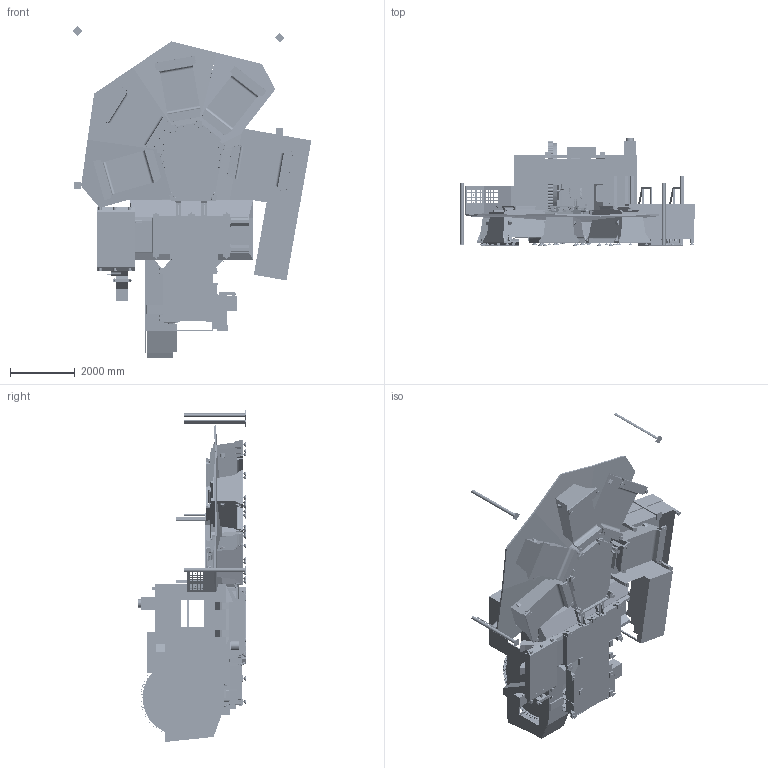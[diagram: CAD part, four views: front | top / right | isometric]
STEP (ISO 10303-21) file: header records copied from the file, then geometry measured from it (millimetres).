
FILE_DESCRIPTION (( 'STEP AP203' ), '1' );
FILE_NAME ('EC-1600ZT- Pallet Pool -10_2025.STEP', '2025-10-03T21:46:51', ( '' ), ( '' ), 'SwSTEP 2.0', 'SolidWorks 2023', '' );
FILE_SCHEMA (( 'CONFIG_CONTROL_DESIGN' ));
Length unit declared in the file: inch
Products named in the file (25): EC1600ZT-Enclosure SA; EC1600ZT-Auto Doors; EC1600ZT-70 Pkt Tool Changer Arm Down; EC1600ZT-Pallet Pool Light Curtain Barrier; EC1600ZT-70 Pkt Tool Changer Assembly; EC1600ZT-Y-Z Axis; EC1600ZT-Pallet Pool Platters; EC1600ZT-Pallet Pool Table assembly; EC1600ZT-Pallet Pool Platform Steps; EC1600ZT-Pallet Pool Center Hub; EC1600ZT-Anchor Pattern; EC1600ZT-Pallet Pool Base Castings; EC1600ZT-Control Panel; EC1600ZT-Leveling Pads; EC1600ZT-Way Covers; EC-1600ZT- Pallet Pool -10_2025; EC1600ZT-Spindle Head; EC1600ZT-95 Gallon Coolant Tank; EC1600ZT-Base Casting; EC1600ZT-In-Tank Belt Style Chip Conveyor; EC1600ZT-Chip Chute; EC1600ZT-70 Pkt Tool Changer Arm Up; EC1600ZT-Pallet Pool Enclosure; EC1600ZT-Side Doors; EC1600ZT-Pallet Pool Leveling Pads
Assembly tree (24 placements, depth 2):
  EC-1600ZT- Pallet Pool -10_2025
    EC1600ZT-Anchor Pattern
    EC1600ZT-Base Casting
    EC1600ZT-Leveling Pads
    EC1600ZT-Y-Z Axis
    EC1600ZT-Spindle Head
    EC1600ZT-Way Covers
    EC1600ZT-70 Pkt Tool Changer Assembly
    EC1600ZT-70 Pkt Tool Changer Arm Up
    EC1600ZT-70 Pkt Tool Changer Arm Down
    EC1600ZT-Auto Doors
    EC1600ZT-Control Panel
    EC1600ZT-95 Gallon Coolant Tank
    EC1600ZT-In-Tank Belt Style Chip Conveyor
    EC1600ZT-Chip Chute
    EC1600ZT-Side Doors
    EC1600ZT-Pallet Pool Leveling Pads
    EC1600ZT-Pallet Pool Table assembly
    EC1600ZT-Pallet Pool Base Castings
    EC1600ZT-Pallet Pool Center Hub
    EC1600ZT-Pallet Pool Platters
    EC1600ZT-Pallet Pool Enclosure
    EC1600ZT-Pallet Pool Platform Steps
    EC1600ZT-Pallet Pool Light Curtain Barrier
    EC1600ZT-Enclosure SA
Bounding box: 7393.9 x 3330.06 x 10290.51 mm (x, y, z)
Volume: 17544327453.6 mm3; surface area: 361999413.5 mm2
Topology: 141 solids, 147 shells, 12820 faces, 33520 edges, 21159 vertices
Faces by surface type: plane 7661, cylinder 3186, cone 952, bspline 692, torus 213, sphere 116
Entity records: 433221 total; most frequent: CARTESIAN_POINT 120635, ORIENTED_EDGE 66408, DIRECTION 61898, EDGE_CURVE 33204, LINE 22080, VECTOR 22080, VERTEX_POINT 21157, AXIS2_PLACEMENT_3D 19909
